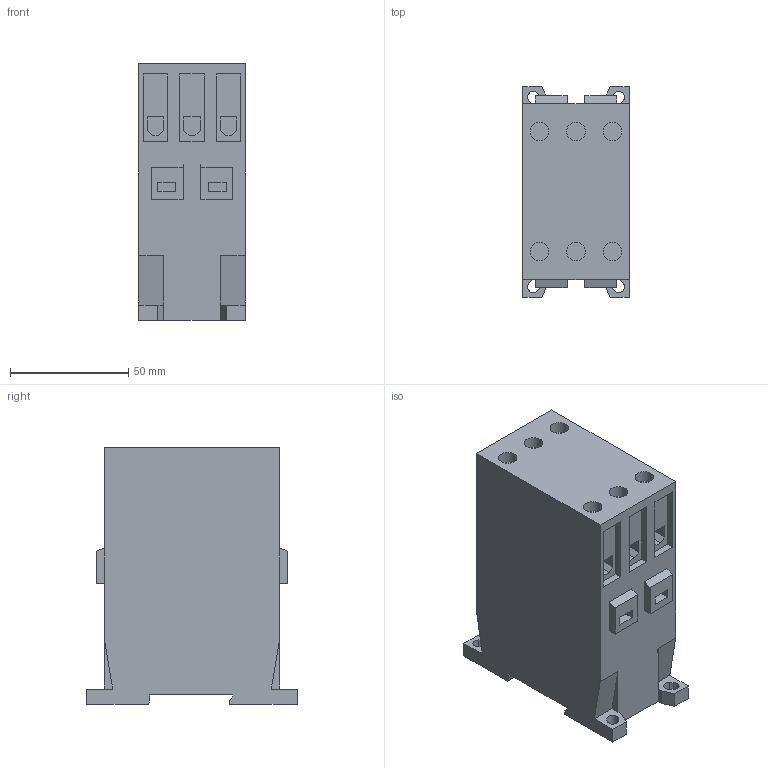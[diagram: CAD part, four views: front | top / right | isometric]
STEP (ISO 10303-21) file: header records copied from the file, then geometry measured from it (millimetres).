
FILE_DESCRIPTION (( 'STEP AP203' ), '1' );
FILE_NAME ('KG3-24_32_40.STEP', '2014-03-10T13:58:06', ( '' ), ( '' ), 'SwSTEP 2.0', 'SolidWorks 2014', '' );
FILE_SCHEMA (( 'CONFIG_CONTROL_DESIGN' ));
Length unit declared in the file: millimetre
Products named in the file (1): KG3-24_32_40
Bounding box: 45 x 89 x 108.5 mm (x, y, z)
Volume: 345206.1 mm3; surface area: 40040 mm2
Topology: 1 solids, 1 shells, 187 faces, 473 edges, 314 vertices
Faces by surface type: plane 163, cylinder 24
Entity records: 5636 total; most frequent: CARTESIAN_POINT 975, ORIENTED_EDGE 946, DIRECTION 897, EDGE_CURVE 473, VECTOR 425, LINE 425, VERTEX_POINT 314, AXIS2_PLACEMENT_3D 236
